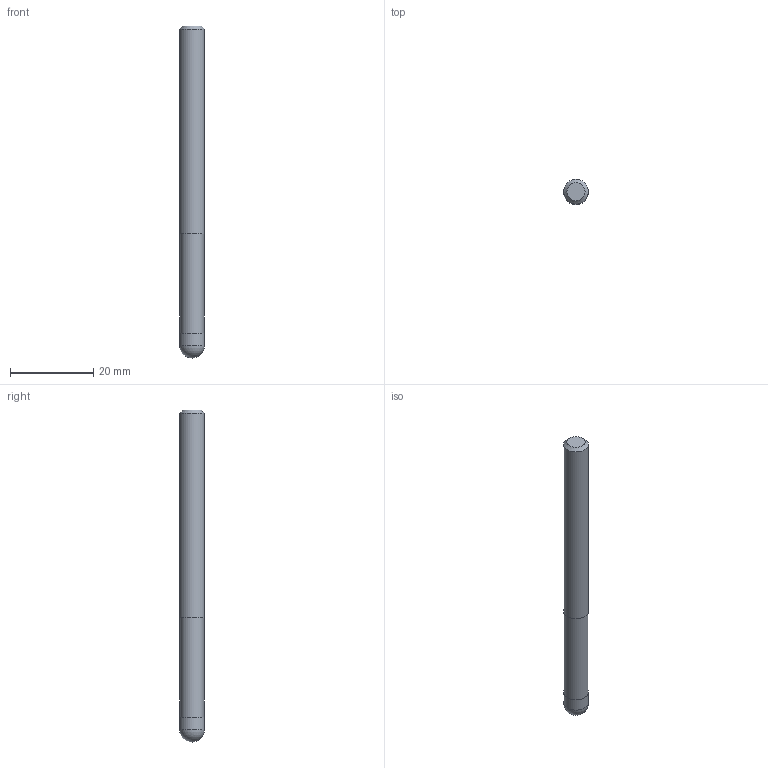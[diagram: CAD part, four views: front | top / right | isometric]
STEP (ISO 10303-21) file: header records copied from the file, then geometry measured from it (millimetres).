
FILE_DESCRIPTION((''),'2;1');
FILE_NAME('C:\Users\nsx150\AppData\Local\Temp\Mastercam 2021\3SYKECWX22\TEMP.step','2021-04-22T10:05:59',(''),(''),'STEP Write','Mastercam 2021 ... CNC Software, Inc.','');
FILE_SCHEMA(('AUTOMOTIVE_DESIGN'));
Length unit declared in the file: millimetre
Products named in the file (1): None
Bounding box: 6 x 6 x 80 mm (x, y, z)
Volume: 2183.7 mm3; surface area: 1568 mm2
Topology: 2 solids, 2 shells, 9 faces, 13 edges, 8 vertices
Faces by surface type: plane 4, cylinder 3, sphere 1, cone 1
Full cylindrical faces by diameter (mm): 5.8 x1, 6 x2
Entity records: 211 total; most frequent: DIRECTION 36, CARTESIAN_POINT 25, AXIS2_PLACEMENT_3D 18, ORIENTED_EDGE 14, EDGE_LOOP 14, STYLED_ITEM 12, ADVANCED_FACE 9, FACE_BOUND 8
